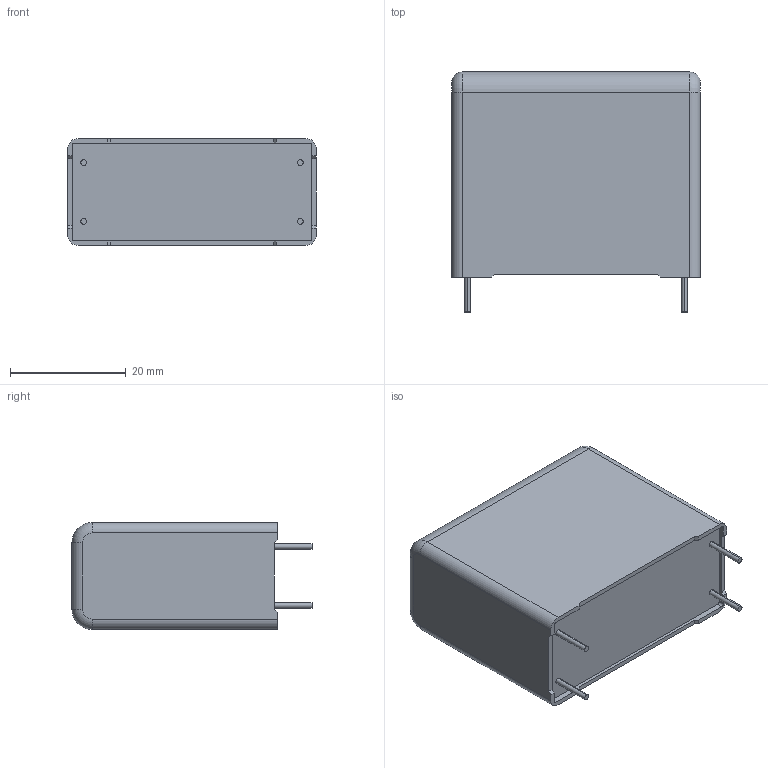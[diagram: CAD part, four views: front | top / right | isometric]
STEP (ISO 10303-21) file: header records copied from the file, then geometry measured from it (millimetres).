
FILE_DESCRIPTION (( 'STEP AP203' ), '1' );
FILE_NAME ('DC_Link_18.5x35.5x43_4pins10.2.step', '2017-04-03T15:59:46', ( 'work' ), ( 'Hewlett-Packard Company' ), 'SwSTEP 2.0', 'SolidWorks 2017', '' );
FILE_SCHEMA (( 'CONFIG_CONTROL_DESIGN' ));
Length unit declared in the file: millimetre
Products named in the file (1): DC_Link_18.5x35.5x43_4pins10.2
Bounding box: 43 x 41.5 x 18.5 mm (x, y, z)
Volume: 27185.5 mm3; surface area: 5803.8 mm2
Topology: 1 solids, 1 shells, 122 faces, 319 edges, 210 vertices
Faces by surface type: plane 82, cylinder 20, bspline 16, torus 4
Entity records: 4492 total; most frequent: CARTESIAN_POINT 1476, ORIENTED_EDGE 638, DIRECTION 545, EDGE_CURVE 319, VECTOR 243, LINE 243, VERTEX_POINT 210, AXIS2_PLACEMENT_3D 151
